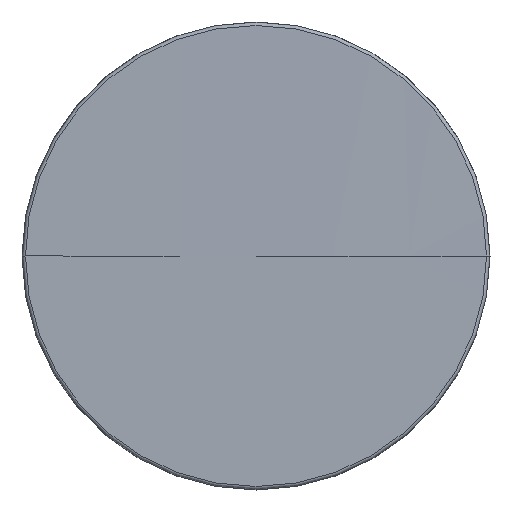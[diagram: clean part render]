
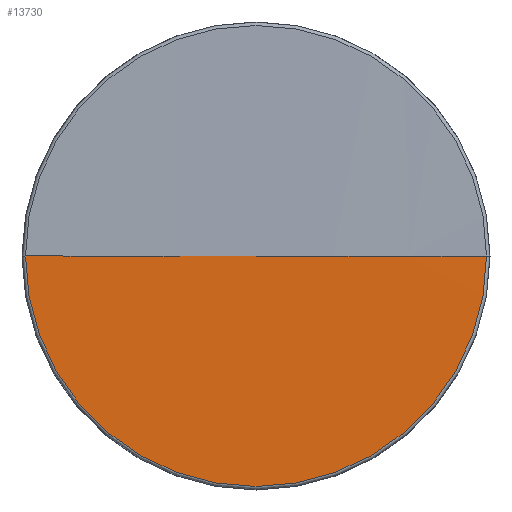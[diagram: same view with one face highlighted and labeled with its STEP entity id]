
A CAD part, front view. The second image highlights one B-rep face of the part: STEP entity #13730.
In plain terms, the highlighted spherical face has radius 12002 mm.
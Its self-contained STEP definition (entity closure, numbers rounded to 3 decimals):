
#13574=CARTESIAN_POINT('',(0.,-54.789,0.));
#13575=DIRECTION('',(0.,1.,0.));
#13576=DIRECTION('',(1.,0.,0.));
#13577=AXIS2_PLACEMENT_3D('',#13574,#13575,#13576);
#13584=CARTESIAN_POINT('',(0.,11946.7,0.));
#13585=DIRECTION('',(0.,0.,1.));
#13586=DIRECTION('',(0.,-1.,0.));
#13587=AXIS2_PLACEMENT_3D('',#13584,#13585,#13586);
#13589=CARTESIAN_POINT('',(0.,11946.7,0.));
#13590=DIRECTION('',(0.,0.,-1.));
#13591=DIRECTION('',(0.,-1.,0.));
#13592=AXIS2_PLACEMENT_3D('',#13589,#13590,#13591);
#13623=CARTESIAN_POINT('',(-110.728,-54.789,
0.));
#13624=CARTESIAN_POINT('',(110.728,-54.789,0.));
#13625=VERTEX_POINT('',#13623);
#13626=VERTEX_POINT('',#13624);
#13627=CARTESIAN_POINT('',(0.,-55.3,0.));
#13628=VERTEX_POINT('',#13627);
#13718=CARTESIAN_POINT('',(0.,11946.7,0.));
#13719=DIRECTION('',(0.,1.,0.));
#13720=DIRECTION('',(1.,0.,0.));
#13721=AXIS2_PLACEMENT_3D('',#13718,#13719,#13720);
#13722=SPHERICAL_SURFACE('',#13721,12002.);
#13723=ORIENTED_EDGE('',*,*,#13712,.T.);
#13725=ORIENTED_EDGE('',*,*,#13724,.F.);
#13727=ORIENTED_EDGE('',*,*,#13726,.T.);
#13728=EDGE_LOOP('',(#13723,#13725,#13727));
#13729=FACE_OUTER_BOUND('',#13728,.F.);
#13730=ADVANCED_FACE('',(#13729),#13722,.T.);
#13578=CIRCLE('',#13577,110.728);
#13588=CIRCLE('',#13587,12002.);
#13593=CIRCLE('',#13592,12002.);
#13712=EDGE_CURVE('',#13626,#13625,#13578,.T.);
#13724=EDGE_CURVE('',#13628,#13625,#13593,.T.);
#13726=EDGE_CURVE('',#13628,#13626,#13588,.T.);
